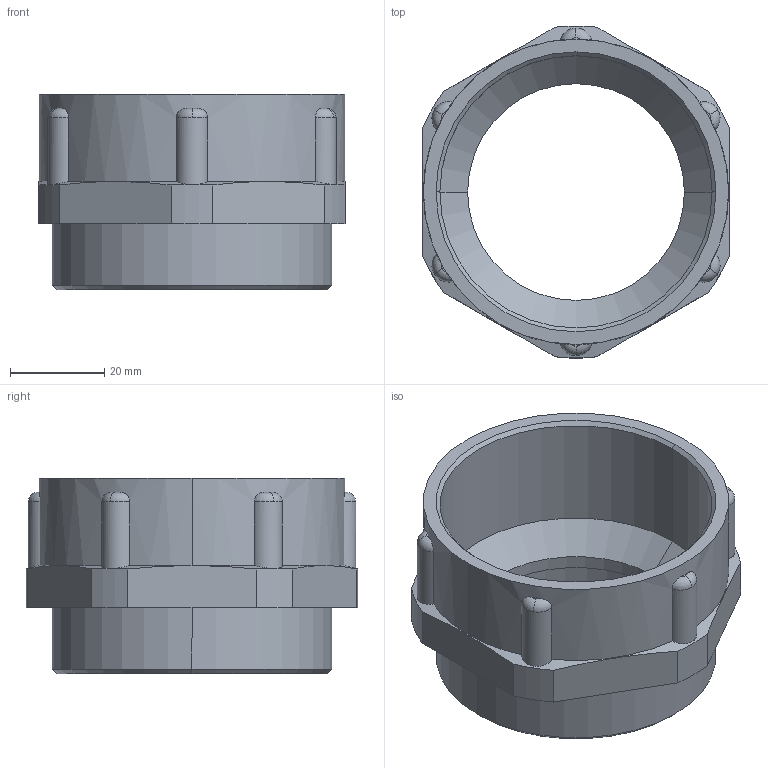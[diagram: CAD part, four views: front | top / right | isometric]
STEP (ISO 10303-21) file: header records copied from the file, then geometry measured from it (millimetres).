
FILE_DESCRIPTION (( 'STEP AP203' ), '1' );
FILE_NAME ('06348 PAU.STEP', '2006-12-08T07:05:58', ( ' ' ), ( '' ), 'SwSTEP 2.0', 'SolidWorks 2005278', '' );
FILE_SCHEMA (( 'CONFIG_CONTROL_DESIGN' ));
Length unit declared in the file: millimetre
Products named in the file (1): 06348 PAU
Bounding box: 65 x 70.44 x 41.5 mm (x, y, z)
Volume: 34090.7 mm3; surface area: 18624.8 mm2
Topology: 1 solids, 1 shells, 97 faces, 258 edges, 168 vertices
Faces by surface type: plane 53, cylinder 22, torus 14, cone 8
Entity records: 3441 total; most frequent: CARTESIAN_POINT 918, ORIENTED_EDGE 516, DIRECTION 510, EDGE_CURVE 258, AXIS2_PLACEMENT_3D 180, VERTEX_POINT 168, VECTOR 150, LINE 150
